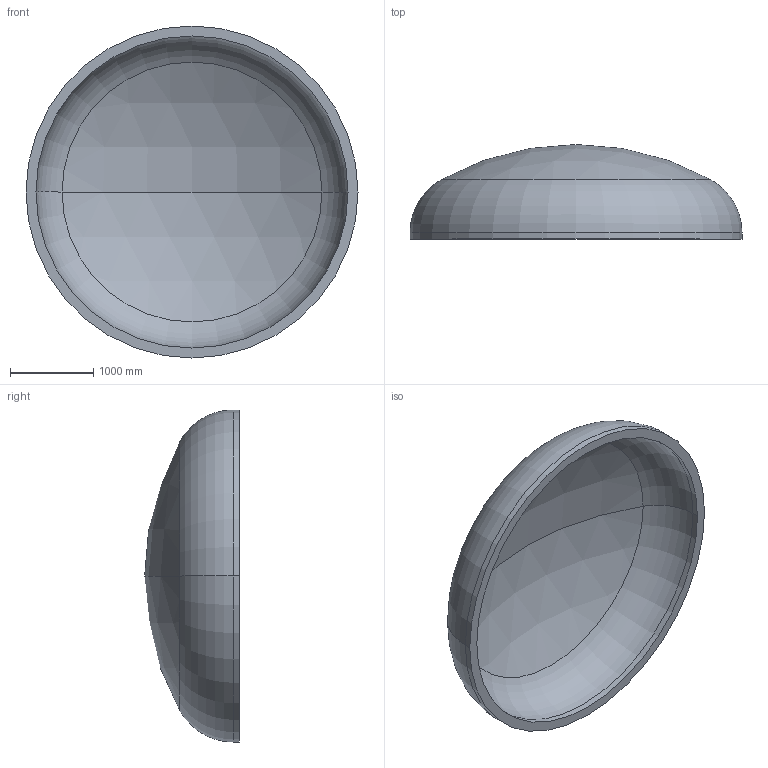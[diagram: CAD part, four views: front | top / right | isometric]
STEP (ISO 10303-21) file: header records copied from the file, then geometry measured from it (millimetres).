
FILE_DESCRIPTION (( 'STEP AP203' ), '1' );
FILE_NAME ('DIN 28013 Korbbogenform_-_Boden DIN 28013 - 4000 x 75 - I - s=120.step', '2016-07-01T22:56:04', ( '' ), ( '' ), 'SwSTEP 2.0', 'SolidWorks 2013', '' );
FILE_SCHEMA (( 'CONFIG_CONTROL_DESIGN' ));
Length unit declared in the file: millimetre
Products named in the file (1): DIN 28013 Korbbogenform_-_Boden DIN 28013 - 4000 x 75 - I - s=120
Bounding box: 4000 x 1140.67 x 4000 mm (x, y, z)
Volume: 2117288982 mm3; surface area: 36781022.5 mm2
Topology: 1 solids, 1 shells, 13 faces, 24 edges, 14 vertices
Faces by surface type: torus 4, cylinder 4, sphere 4, plane 1
Entity records: 407 total; most frequent: DIRECTION 72, CARTESIAN_POINT 52, ORIENTED_EDGE 48, AXIS2_PLACEMENT_3D 34, EDGE_CURVE 24, CIRCLE 20, VERTEX_POINT 14, EDGE_LOOP 14
